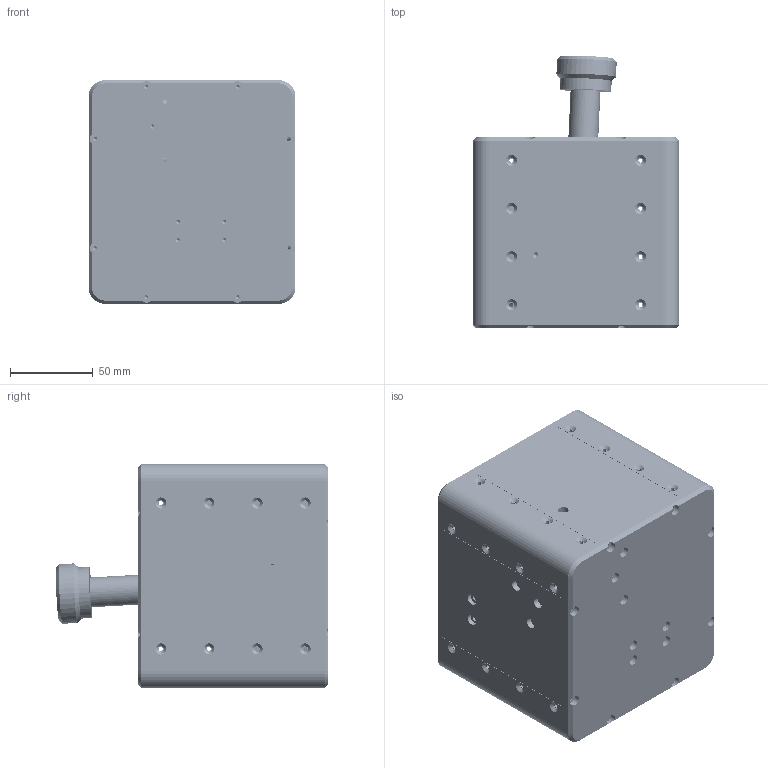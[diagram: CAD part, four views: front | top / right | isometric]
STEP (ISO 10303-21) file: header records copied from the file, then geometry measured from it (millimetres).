
FILE_DESCRIPTION (( 'STEP AP214' ), '1' );
FILE_NAME ('FFB_Base.STEP', '2026-02-01T10:22:34', ( '' ), ( '' ), 'SwSTEP 2.0', 'SolidWorks 2022', '' );
FILE_SCHEMA (( 'AUTOMOTIVE_DESIGN' ));
Length unit declared in the file: millimetre
Products named in the file (92): klemring; Lagerbolzen_2; GT2_14T_Puly_big; JST_PH_B4B-PH-K_1x04_P2.00mm_Vertical.step; Nebenachse; Huelse_lang; SW_Tactile_SPST_NO_Straight_CK_PTS636Sx25SMTRLFS.step; JST_PH_B5B-PH-K_1x05_P2.00mm_Vertical.step; Gehaeusewand_2-2; JST_B5B_PH_K.step; Gehaeusewand; Gimbal_BG; Motorshavt_Belted; Bootomplate; Anschlag_1; as5047d_Module; Bridge; C_1206_3216Metric-3.step; Wiederlager_idler; C_0603_1608Metric-2.step; lager 106-zz; FFB_Maine; C_0603_1608Metric.step; Gehaeusewand_1-2; PTS636Sx25SMTRLFS.step; Hausing_BG; lager 104-zz; Magnet; SOT-23.step; JST_B2B_PH_K.step; motormount; Bridge_2; C_0805_2012Metric.step; LQFP-64_10x10mm_P0.5mm.step; AS5047D_Board; Lager F623-2RS; FFB_Maine.step; C_0201_0603Metric.step; lager 6702; C_0805_2012Metric-0.step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
Assembly tree (196 placements, depth 5):
  FFB_Base
    Hausing_BG
      Bootomplate
      Gehaeusewand
      lager 104-zz  x4
      Anschlaglimmiter_2  x2
      Gehaeusewand_2
      Gehaeusewand_2-2
      Gehaeusewand_1-2
      Corners  x4
      Wiederlager_idler  x2
      Huelse  x4
      Lager F623-2RS  x8
      Huelse_lang  x2
    Motor_2_BG
      motormount
      Motor_2845
      GT2_14T_Puly_big
      GT2_80T_Puly_12T
      GT2_Riemen_174mm
      Motorshavt_Belted
      lager 104-zz
      Nebenachse
      GT2_20T_12T
      Magnet
      Tellerfeder  x6
      Magnethalter
      AS5047D_Board
    Motor_1_BG
      motormount3
      Motor_2845
      lager 104-zz
      as5047d_Module
      GT2_14T_Puly_big
      GT2_80T_Puly_12T
      Motorshavt_Belted
      GT2_Riemen_174mm
      Nebenachse
      Magnet
      Tellerfeder  x6
      Magnethalter
      GT2_20T_12T
      AS5047D_Board.step
        TSSOP14_AMS.step
          part.step
        SM06B-SRSS-TB.step
          SM06B-SRSS.step
        C_0805_2012Metric.step
          C_0805_2012Metric-0.step
        AS5047D_Board_PCB.step
    Gimbal_BG
      Bridge
      lager 106-zz  x10
      konterlager
      lager 6702  x2
      Costom_passschraube  x2
      Fork
      interface
      klemring  x2
      Bridge_2
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Bounding box: 124.75 x 164.44 x 135 mm (x, y, z)
Volume: 717329.8 mm3; surface area: 357030.4 mm2
Topology: 275 solids, 275 shells, 9994 faces, 26158 edges, 16931 vertices
Faces by surface type: cylinder 4709, plane 4658, cone 378, bspline 189, torus 32, sphere 28
Entity records: 212170 total; most frequent: CARTESIAN_POINT 39012, DIRECTION 33606, ORIENTED_EDGE 32438, EDGE_CURVE 16219, AXIS2_PLACEMENT_3D 11717, VERTEX_POINT 10542, LINE 10172, VECTOR 10172
